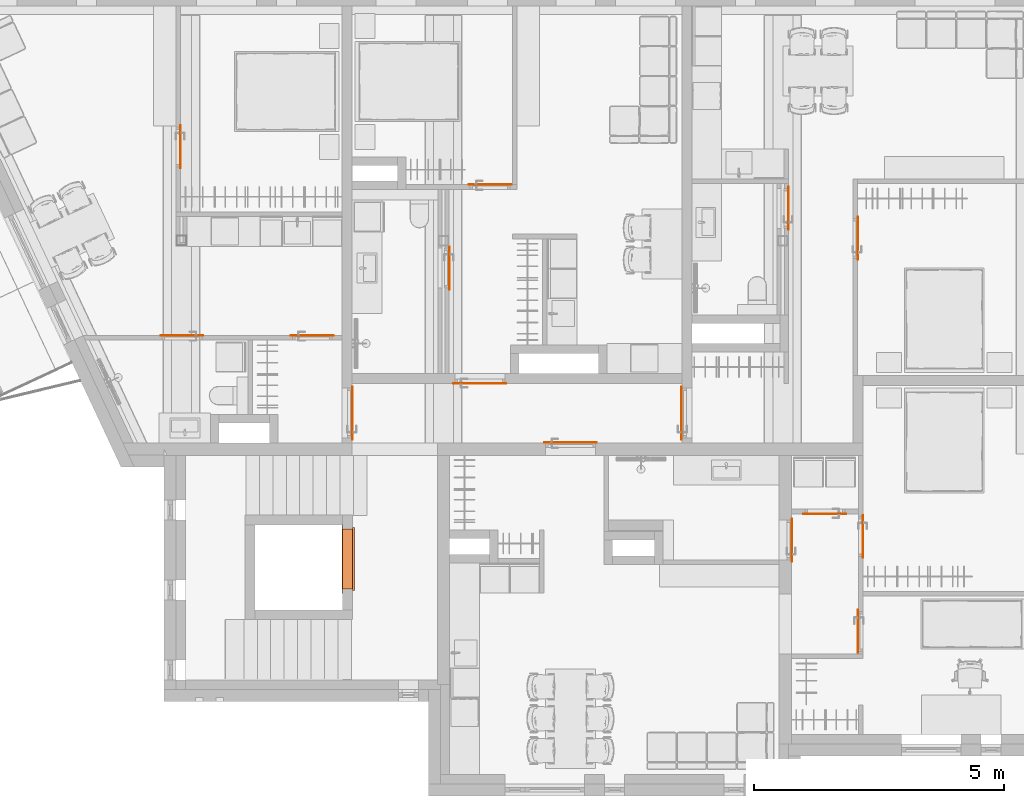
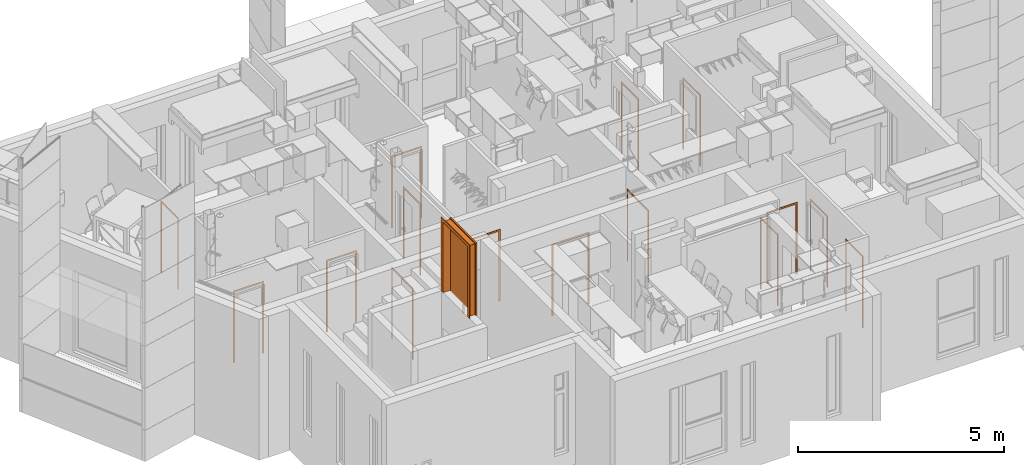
# One storey, part 97 of 125: 16 proxies.
"""IFC2X3 building model written with IfcOpenShell, lengths in millimetres."""

from ifc_helpers import new_model, entity, si_unit, converted_unit, direction, frame, origin, origin_2d_with_axis, place, context, subcontext, project, spatial, polyline, rectangle, outline, extrude, source, transform, mapped, material, type_object, type_shapes, element, save


model = new_model("IFC2X3")

# Units and contexts
model_context = context("Model", 3, precision=0.01, world=origin(), true_north=direction((6.123233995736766e-17, 1.0)))
plan_context = context("Plan", 3, precision=0.01, world=origin(), true_north=direction((6.123233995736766e-17, 1.0)))
body_context = subcontext(model_context, "Body", "Model", "MODEL_VIEW")
ifc_project = project(units=[si_unit("LENGTHUNIT", "METRE", prefix="MILLI"), converted_unit("PLANEANGLEUNIT", "DEGREE", entity("IfcPlaneAngleMeasure", 0.017453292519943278), si_unit("PLANEANGLEUNIT", "RADIAN"), dimensions=[0, 0, 0, 0, 0, 0, 0]), si_unit("AREAUNIT", "SQUARE_METRE")], contexts=[model_context, plan_context])

# Site, building, storey, space
site_placement = place(None, origin())
site = spatial("IfcSite", under=ifc_project, at=site_placement, Name="Default", CompositionType="ELEMENT")
building_placement = place(site_placement, origin())
building = spatial("IfcBuilding", under=site, at=building_placement, CompositionType="ELEMENT")
storey_placement = place(building_placement, frame((0.0, 0.0, 3125.0)))
storey = spatial("IfcBuildingStorey", under=building, at=storey_placement, Name="2K", CompositionType="ELEMENT", Elevation=3125.0)
space_1_placement = place(storey_placement, origin())
space_1 = spatial("IfcSpace", under=storey, at=space_1_placement, Name="2-0.3", CompositionType="ELEMENT", InteriorOrExteriorSpace="INTERNAL")

# Proxies
ifc_material_1 = material(Name="<Unnamed>")
building_element_proxy_type_1 = type_object("IfcBuildingElementProxyType", Name="Door-casing_Rectangle:Door-casing_Rectangle", PredefinedType="NOTDEFINED", material=ifc_material_1)
shared_shape_1 = source(origin(), body_context, "Body", "SweptSolid", [
    extrude(rectangle(XDim=9.999999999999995, YDim=49.99999999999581, at=origin_2d_with_axis()), frame((-505.0, 5.0, 0.0), z_axis=(0.0, 0.0, 1.0), x_axis=(0.0, 1.0, 0.0)), (0.0, 0.0, 1.0), 2130.000000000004),
    extrude(rectangle(XDim=9.999999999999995, YDim=50.0000000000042, at=origin_2d_with_axis()), frame((505.0, 5.0, 0.0), z_axis=(0.0, 0.0, 1.0), x_axis=(0.0, 1.0, 0.0)), (0.0, 0.0, 1.0), 2130.000000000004),
    extrude(rectangle(XDim=9.999999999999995, YDim=960.0000000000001, at=origin_2d_with_axis()), frame((0.0, 5.0, 2080.0), z_axis=(0.0, 0.0, 1.0), x_axis=(0.0, 1.0, 0.0)), (0.0, 0.0, 1.0), 50.000000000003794),
])
type_shapes(building_element_proxy_type_1, [shared_shape_1])
for number, where, z_axis, x_axis, name in (
    (1, (3344.9935349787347, 7244.999979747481, 0.0), (0.0, 0.0, 1.0), (0.0, -1.0, 0.0), "Door-casing_Rectangle:Door-casing_Rectangle"),
    (2, (5904.0, 7840.0, 0.0), (0.0, 0.0, 1.0), (-1.0, 0.0, 0.0), "Door-casing_Rectangle:Door-casing_Rectangle"),
    (3, (9950.0, 7244.999979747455, 0.0), (0.0, 0.0, 1.0), (0.0, 1.0, 0.0), "Door-casing_Rectangle:Door-casing_Rectangle"),
):
    element("IfcBuildingElementProxy", number, at=place(space_1_placement, frame(where, z_axis=z_axis, x_axis=x_axis)), inside=space_1, type_object=building_element_proxy_type_1, material=ifc_material_1, Name=name, ObjectType="Door-casing_Rectangle:Door-casing_Rectangle", context=body_context, shape_type="MappedRepresentation", body=[
        mapped(shared_shape_1, transform((0.0, 0.0, 0.0), scale=1.0)),
    ])
proxy_1_placement = place(space_1_placement, frame((7720.0, 6649.999959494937, 0.0)))
element("IfcBuildingElementProxy", 4, at=proxy_1_placement, inside=space_1, type_object=building_element_proxy_type_1, material=ifc_material_1, Name="Door-casing_Rectangle:Door-casing_Rectangle", ObjectType="Door-casing_Rectangle:Door-casing_Rectangle", context=body_context, shape_type="MappedRepresentation", body=[
    mapped(shared_shape_1, transform((0.0, 0.0, 0.0), scale=1.0)),
])

# Space
space_2_placement = place(storey_placement, origin())
space_2 = spatial("IfcSpace", under=storey, at=space_2_placement, Name="2-0.2", CompositionType="ELEMENT", InteriorOrExteriorSpace="INTERNAL")

# Proxy
building_element_proxy_type_2 = type_object("IfcBuildingElementProxyType", Name="HR_Elevator-door_v1:Default", PredefinedType="NOTDEFINED", material=ifc_material_1)
shared_shape_2 = source(origin(), body_context, "Body", "SweptSolid", [
    extrude(rectangle(XDim=39.999999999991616, YDim=630.0000000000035, at=origin_2d_with_axis()), frame((-190.0, -120.00000000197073, -30.0), z_axis=(0.0, 0.0, 1.0), x_axis=(0.0, 1.0, 0.0)), (0.0, 0.0, 1.0), 2160.000000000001),
    extrude(rectangle(XDim=39.999999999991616, YDim=629.9999999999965, at=origin_2d_with_axis()), frame((440.0, -120.00000000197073, -30.0), z_axis=(0.0, 0.0, 1.0), x_axis=(0.0, 1.0, 0.0)), (0.0, 0.0, 1.0), 2160.000000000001),
    extrude(outline(polyline([(-690.0, -1070.0), (-590.0, -1070.0), (-590.0, 1020.0), (590.0, 1020.0), (590.0, -1070.0), (690.0, -1070.0), (690.0, 1120.0), (-690.0, 1120.0), (-690.0, -1070.0)])), frame((125.0, 99.99999999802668, 1070.0), z_axis=(0.0, 1.0, 0.0), x_axis=(-1.0, 0.0, 0.0)), (0.0, 0.0, 1.0), 10.000000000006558),
    extrude(outline(polyline([(-1052.5000000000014, -600.0), (1047.5, -600.0), (1047.4999999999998, -590.0), (-1042.4999999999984, -590.0), (-1042.4999999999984, 590.0), (1047.4999999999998, 590.0), (1047.5, 600.0), (-1052.5000000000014, 600.0), (-1052.5000000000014, -600.0)])), frame((125.0, -100.00000000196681, 1047.5000000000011), z_axis=(0.0, 1.0, 0.0), x_axis=(0.0, 0.0, -1.0)), (0.0, 0.0, 1.0), 199.99999999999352),
])
type_shapes(building_element_proxy_type_2, [shared_shape_2])
proxy_2_placement = place(space_2_placement, frame((3249.9935349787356, 4195.0, 3170.0), z_axis=(0.0, 0.0, 1.0), x_axis=(0.0, 1.0, 0.0)))
element("IfcBuildingElementProxy", 5, at=proxy_2_placement, inside=space_2, type_object=building_element_proxy_type_2, material=ifc_material_1, Name="HR_Elevator-door_v1:Default", ObjectType="HR_Elevator-door_v1:Default", context=body_context, shape_type="MappedRepresentation", body=[
    mapped(shared_shape_2, transform((0.0, 0.0, 0.0), scale=1.0)),
])

# Space
space_3_placement = place(storey_placement, origin())
space_3 = spatial("IfcSpace", under=storey, at=space_3_placement, Name="2-1.3", CompositionType="ELEMENT", InteriorOrExteriorSpace="INTERNAL")

# Proxy
ifc_material_2 = material(Name="_K. Puit. Peitsitud ja lakitud")
building_element_proxy_type_3 = type_object("IfcBuildingElementProxyType", Name="Door-casing_Rectangle:Door-casing_Rectangle", PredefinedType="NOTDEFINED", material=ifc_material_2)
shared_shape_3 = source(origin(), body_context, "Body", "SweptSolid", [
    extrude(rectangle(XDim=9.999999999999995, YDim=49.99999999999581, at=origin_2d_with_axis()), frame((-405.0, 5.0, 0.0), z_axis=(0.0, 0.0, 1.0), x_axis=(0.0, 1.0, 0.0)), (0.0, 0.0, 1.0), 2130.000000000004),
    extrude(rectangle(XDim=9.999999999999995, YDim=50.0000000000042, at=origin_2d_with_axis()), frame((405.0, 5.0, 0.0), z_axis=(0.0, 0.0, 1.0), x_axis=(0.0, 1.0, 0.0)), (0.0, 0.0, 1.0), 2130.000000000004),
    extrude(rectangle(XDim=9.999999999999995, YDim=760.0000000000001, at=origin_2d_with_axis()), frame((0.0, 5.0, 2080.0), z_axis=(0.0, 0.0, 1.0), x_axis=(0.0, 1.0, 0.0)), (0.0, 0.0, 1.0), 50.000000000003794),
])
type_shapes(building_element_proxy_type_3, [shared_shape_3])
proxy_3_placement = place(space_3_placement, frame((-96.01000000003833, 12579.0, 0.0), z_axis=(0.0, 0.0, 1.0), x_axis=(0.0, -1.0, 0.0)))
element("IfcBuildingElementProxy", 6, at=proxy_3_placement, inside=space_3, type_object=building_element_proxy_type_3, material=ifc_material_2, Name="Door-casing_Rectangle:Door-casing_Rectangle", ObjectType="Door-casing_Rectangle:Door-casing_Rectangle", context=body_context, shape_type="MappedRepresentation", body=[
    mapped(shared_shape_3, transform((0.0, 0.0, 0.0), scale=1.0)),
])

# Space
space_4_placement = place(storey_placement, origin())
space_4 = spatial("IfcSpace", under=storey, at=space_4_placement, Name="2-1.2", CompositionType="ELEMENT", InteriorOrExteriorSpace="INTERNAL")

# Proxies
for number, where, name in (
    (7, (-65.00646502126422, 8798.0, 0.0), "Door-casing_Rectangle:Door-casing_Rectangle"),
    (8, (2544.9935349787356, 8798.0, 0.0), "Door-casing_Rectangle:Door-casing_Rectangle"),
):
    element("IfcBuildingElementProxy", number, at=place(space_4_placement, frame(where)), inside=space_4, type_object=building_element_proxy_type_3, material=ifc_material_2, Name=name, ObjectType="Door-casing_Rectangle:Door-casing_Rectangle", context=body_context, shape_type="MappedRepresentation", body=[
        mapped(shared_shape_3, transform((0.0, 0.0, 0.0), scale=1.0)),
    ])

# Space
space_5_placement = place(storey_placement, origin())
space_5 = spatial("IfcSpace", under=storey, at=space_5_placement, Name="2-2.3", CompositionType="ELEMENT", InteriorOrExteriorSpace="INTERNAL")

# Proxy
proxy_4_placement = place(space_5_placement, frame((6108.0, 11822.0, 0.0)))
element("IfcBuildingElementProxy", 9, at=proxy_4_placement, inside=space_5, type_object=building_element_proxy_type_3, material=ifc_material_2, Name="Door-casing_Rectangle:Door-casing_Rectangle", ObjectType="Door-casing_Rectangle:Door-casing_Rectangle", context=body_context, shape_type="MappedRepresentation", body=[
    mapped(shared_shape_3, transform((0.0, 0.0, 0.0), scale=1.0)),
])

# Space
space_6_placement = place(storey_placement, origin())
space_6 = spatial("IfcSpace", under=storey, at=space_6_placement, Name="2-2.1", CompositionType="ELEMENT", InteriorOrExteriorSpace="INTERNAL")

# Proxy
proxy_5_placement = place(space_6_placement, frame((5288.0, 10150.0, 0.0), z_axis=(0.0, 0.0, 1.0), x_axis=(0.0, -1.0, 0.0)))
element("IfcBuildingElementProxy", 10, at=proxy_5_placement, inside=space_6, type_object=building_element_proxy_type_3, material=ifc_material_2, Name="Door-casing_Rectangle:Door-casing_Rectangle", ObjectType="Door-casing_Rectangle:Door-casing_Rectangle", context=body_context, shape_type="MappedRepresentation", body=[
    mapped(shared_shape_3, transform((0.0, 0.0, 0.0), scale=1.0)),
])

# Space
space_7_placement = place(storey_placement, origin())
space_7 = spatial("IfcSpace", under=storey, at=space_7_placement, Name="2-3.1", CompositionType="ELEMENT", InteriorOrExteriorSpace="INTERNAL")

# Proxy
proxy_6_placement = place(space_7_placement, frame((12088.0, 11348.0, 0.0), z_axis=(0.0, 0.0, 1.0), x_axis=(0.0, -1.0, 0.0)))
element("IfcBuildingElementProxy", 11, at=proxy_6_placement, inside=space_7, type_object=building_element_proxy_type_3, material=ifc_material_2, Name="Door-casing_Rectangle:Door-casing_Rectangle", ObjectType="Door-casing_Rectangle:Door-casing_Rectangle", context=body_context, shape_type="MappedRepresentation", body=[
    mapped(shared_shape_3, transform((0.0, 0.0, 0.0), scale=1.0)),
])

# Space
space_8_placement = place(storey_placement, origin())
space_8 = spatial("IfcSpace", under=storey, at=space_8_placement, Name="2-3.3", CompositionType="ELEMENT", InteriorOrExteriorSpace="INTERNAL")

# Proxy
proxy_7_placement = place(space_8_placement, frame((13472.0, 10748.0, 0.0), z_axis=(0.0, 0.0, 1.0), x_axis=(0.0, -1.0, 0.0)))
element("IfcBuildingElementProxy", 12, at=proxy_7_placement, inside=space_8, type_object=building_element_proxy_type_3, material=ifc_material_2, Name="Door-casing_Rectangle:Door-casing_Rectangle", ObjectType="Door-casing_Rectangle:Door-casing_Rectangle", context=body_context, shape_type="MappedRepresentation", body=[
    mapped(shared_shape_3, transform((0.0, 0.0, 0.0), scale=1.0)),
])

# Space
space_9_placement = place(storey_placement, origin())
space_9 = spatial("IfcSpace", under=storey, at=space_9_placement, Name="2-4.3", CompositionType="ELEMENT", InteriorOrExteriorSpace="INTERNAL")

# Proxy
proxy_8_placement = place(space_9_placement, frame((12818.996767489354, 5227.999959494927, 0.0), z_axis=(0.0, 0.0, 1.0), x_axis=(-1.0, 0.0, 0.0)))
element("IfcBuildingElementProxy", 13, at=proxy_8_placement, inside=space_9, type_object=building_element_proxy_type_3, material=ifc_material_2, Name="Door-casing_Rectangle:Door-casing_Rectangle", ObjectType="Door-casing_Rectangle:Door-casing_Rectangle", context=body_context, shape_type="MappedRepresentation", body=[
    mapped(shared_shape_3, transform((0.0, 0.0, 0.0), scale=1.0)),
])

# Space
space_10_placement = place(storey_placement, origin())
space_10 = spatial("IfcSpace", under=storey, at=space_10_placement, Name="2-4.4", CompositionType="ELEMENT", InteriorOrExteriorSpace="INTERNAL")

# Proxies
proxy_9_placement = place(space_10_placement, frame((13580.0, 4772.0, 0.0), z_axis=(0.0, 0.0, 1.0), x_axis=(0.0, -1.0, 0.0)))
element("IfcBuildingElementProxy", 14, at=proxy_9_placement, inside=space_10, type_object=building_element_proxy_type_3, material=ifc_material_2, Name="Door-casing_Rectangle:Door-casing_Rectangle", ObjectType="Door-casing_Rectangle:Door-casing_Rectangle", context=body_context, shape_type="MappedRepresentation", body=[
    mapped(shared_shape_3, transform((0.0, 0.0, 0.0), scale=1.0)),
])
for number, where, z_axis, x_axis, name in (
    (15, (13488.0, 2869.999959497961, 0.0), (0.0, 0.0, 1.0), (0.0, 1.0, 0.0), "Door-casing_Rectangle:Door-casing_Rectangle"),
    (16, (12149.993534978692, 4699.997631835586, 0.0), (0.0, 0.0, 1.0), (0.0, -1.0, 0.0), "Door-casing_Rectangle:Door-casing_Rectangle"),
):
    element("IfcBuildingElementProxy", number, at=place(space_9_placement, frame(where, z_axis=z_axis, x_axis=x_axis)), inside=space_9, type_object=building_element_proxy_type_3, material=ifc_material_2, Name=name, ObjectType="Door-casing_Rectangle:Door-casing_Rectangle", context=body_context, shape_type="MappedRepresentation", body=[
        mapped(shared_shape_3, transform((0.0, 0.0, 0.0), scale=1.0)),
    ])

save(model, "model.ifc")
